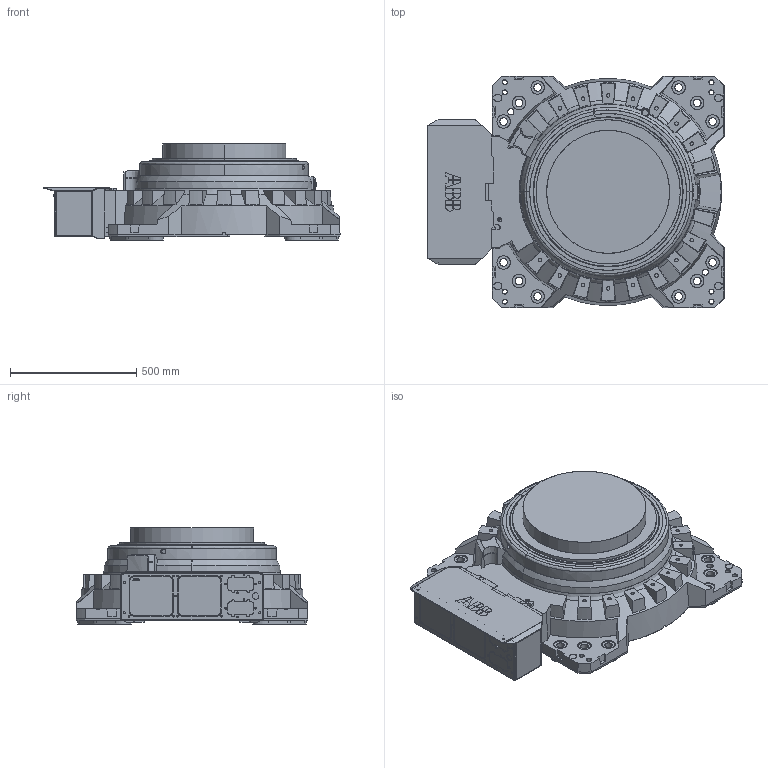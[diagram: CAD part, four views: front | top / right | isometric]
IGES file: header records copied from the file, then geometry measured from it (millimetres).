
Start section: SolidWorks IGES file using analytic representation for surfaces
Global section: file name: B:\DM\Robotics\SEROP_PROJ\Product Development\DevelopmentProjects\HD\3_Design PRMD\4_Struktur SAP o CAD\Lättmodeller\IRB8700-SW6_800-350\IRB8700-SW6_800-350_IRC5_IGES_j\IRB8700-SW6_800-350_IRC5_rev01_BASE_CAD.IGS; native system: SolidWorks 2014; preprocessor: SolidWorks 2014; author: sepehak; date: 150605.110211; units: millimetre
Bounding box: 1175 x 920 x 380.9 mm (x, y, z)
Surface area: 3235228.8 mm2 (no closed solid volume)
Topology: 0 solids, 0 shells, 1103 faces, 15349 edges, 15317 vertices
Faces by surface type: bspline 638, revolution 465
